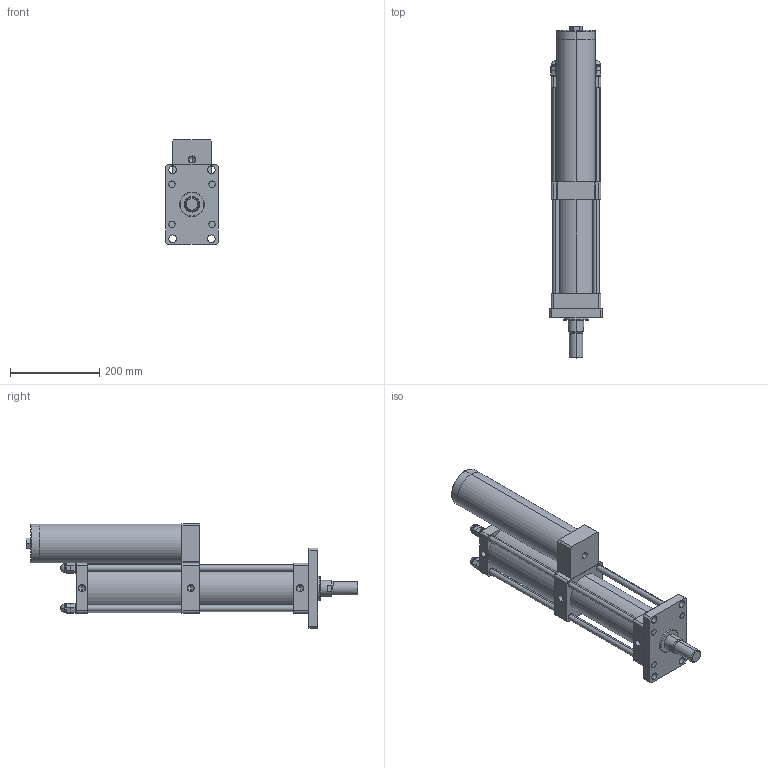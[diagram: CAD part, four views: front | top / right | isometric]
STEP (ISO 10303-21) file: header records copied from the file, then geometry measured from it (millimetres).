
FILE_DESCRIPTION (( 'STEP AP203' ), '1' );
FILE_NAME ('MPT-80-150-10-8T.STEP', '2016-03-11T03:35:41', ( 'WIN' ), ( '' ), 'SwSTEP 2.0', 'SolidWorks 2014', '' );
FILE_SCHEMA (( 'CONFIG_CONTROL_DESIGN' ));
Length unit declared in the file: millimetre
Products named in the file (1): MPT-80-150-10-8T
Bounding box: 118 x 745 x 235 mm (x, y, z)
Volume: 6009980.7 mm3; surface area: 716405.6 mm2
Topology: 20 solids, 20 shells, 400 faces, 968 edges, 562 vertices
Faces by surface type: plane 187, cylinder 90, torus 48, bspline 48, cone 27
Entity records: 12732 total; most frequent: CARTESIAN_POINT 3707, DIRECTION 1901, ORIENTED_EDGE 1804, EDGE_CURVE 902, AXIS2_PLACEMENT_3D 700, VERTEX_POINT 562, LINE 501, VECTOR 501
